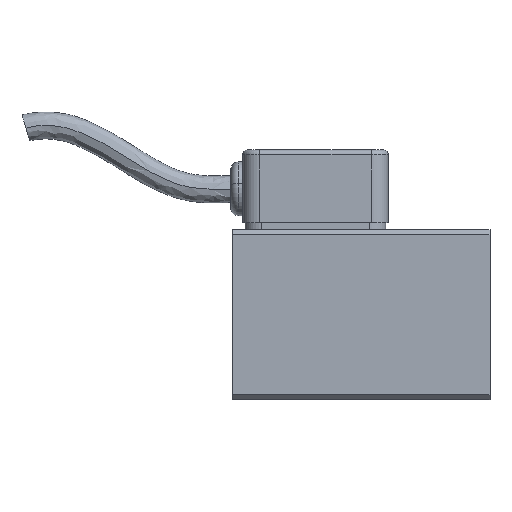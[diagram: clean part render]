
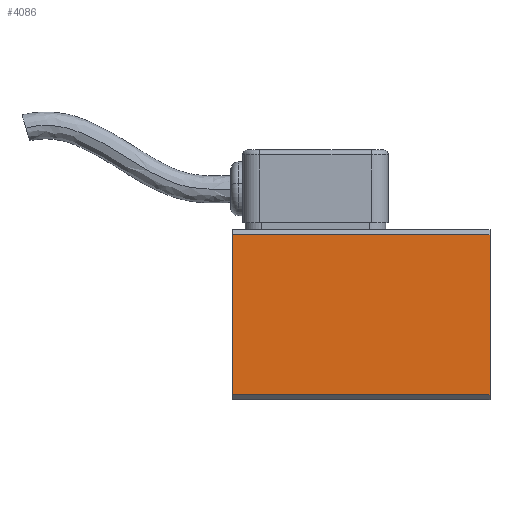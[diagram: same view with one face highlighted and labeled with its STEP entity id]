
A CAD part, top view. The second image highlights one B-rep face of the part: STEP entity #4086.
In plain terms, the highlighted planar face has unit normal (0, 0, 1).
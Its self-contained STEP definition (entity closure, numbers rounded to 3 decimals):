
#47 = EDGE_CURVE ( 'NONE', #9420, #8016, #7218, .T. ) ;
#160 = EDGE_LOOP ( 'NONE', ( #8061, #8640, #8224, #9857 ) ) ;
#254 = CARTESIAN_POINT ( 'NONE',  ( 53., 16.5, 17.5 ) ) ;
#649 = AXIS2_PLACEMENT_3D ( 'NONE', #3107, #8798, #3925 ) ;
#914 = CARTESIAN_POINT ( 'NONE',  ( 53., -17.5, 17.5 ) ) ;
#988 = DIRECTION ( 'NONE',  ( 0., -1., 0. ) ) ;
#993 = EDGE_CURVE ( 'NONE', #10474, #6714, #5853, .T. ) ;
#1580 = CARTESIAN_POINT ( 'NONE',  ( 0., -17.5, 17.5 ) ) ;
#1955 = FACE_OUTER_BOUND ( 'NONE', #160, .T. ) ;
#2789 = LINE ( 'NONE', #9299, #4703 ) ;
#3011 = DIRECTION ( 'NONE',  ( -1., 0., 0. ) ) ;
#3107 = CARTESIAN_POINT ( 'NONE',  ( 53., -17.5, 17.5 ) ) ;
#3384 = CARTESIAN_POINT ( 'NONE',  ( 0., -16.5, 17.5 ) ) ;
#3925 = DIRECTION ( 'NONE',  ( -1., 0., 0. ) ) ;
#4086 = ADVANCED_FACE ( 'NONE', ( #1955 ), #10401, .F. ) ;
#4703 = VECTOR ( 'NONE', #8444, 1000. ) ;
#4752 = EDGE_CURVE ( 'NONE', #6714, #8016, #2789, .T. ) ;
#5359 = EDGE_CURVE ( 'NONE', #9420, #10474, #10308, .T. ) ;
#5853 = LINE ( 'NONE', #1580, #9934 ) ;
#6714 = VERTEX_POINT ( 'NONE', #3384 ) ;
#7218 = LINE ( 'NONE', #914, #9399 ) ;
#7510 = CARTESIAN_POINT ( 'NONE',  ( 0., 16.5, 17.5 ) ) ;
#8016 = VERTEX_POINT ( 'NONE', #9343 ) ;
#8061 = ORIENTED_EDGE ( 'NONE', *, *, #993, .T. ) ;
#8069 = DIRECTION ( 'NONE',  ( 0., -1., 0. ) ) ;
#8132 = VECTOR ( 'NONE', #3011, 1000. ) ;
#8224 = ORIENTED_EDGE ( 'NONE', *, *, #47, .F. ) ;
#8444 = DIRECTION ( 'NONE',  ( 1., 0., 0. ) ) ;
#8640 = ORIENTED_EDGE ( 'NONE', *, *, #4752, .T. ) ;
#8798 = DIRECTION ( 'NONE',  ( 0., 0., -1. ) ) ;
#9299 = CARTESIAN_POINT ( 'NONE',  ( 53., -16.5, 17.5 ) ) ;
#9343 = CARTESIAN_POINT ( 'NONE',  ( 53., -16.5, 17.5 ) ) ;
#9399 = VECTOR ( 'NONE', #988, 1000. ) ;
#9420 = VERTEX_POINT ( 'NONE', #254 ) ;
#9497 = CARTESIAN_POINT ( 'NONE',  ( 53., 16.5, 17.5 ) ) ;
#9857 = ORIENTED_EDGE ( 'NONE', *, *, #5359, .T. ) ;
#9934 = VECTOR ( 'NONE', #8069, 1000. ) ;
#10308 = LINE ( 'NONE', #9497, #8132 ) ;
#10401 = PLANE ( 'NONE',  #649 ) ;
#10474 = VERTEX_POINT ( 'NONE', #7510 ) ;
